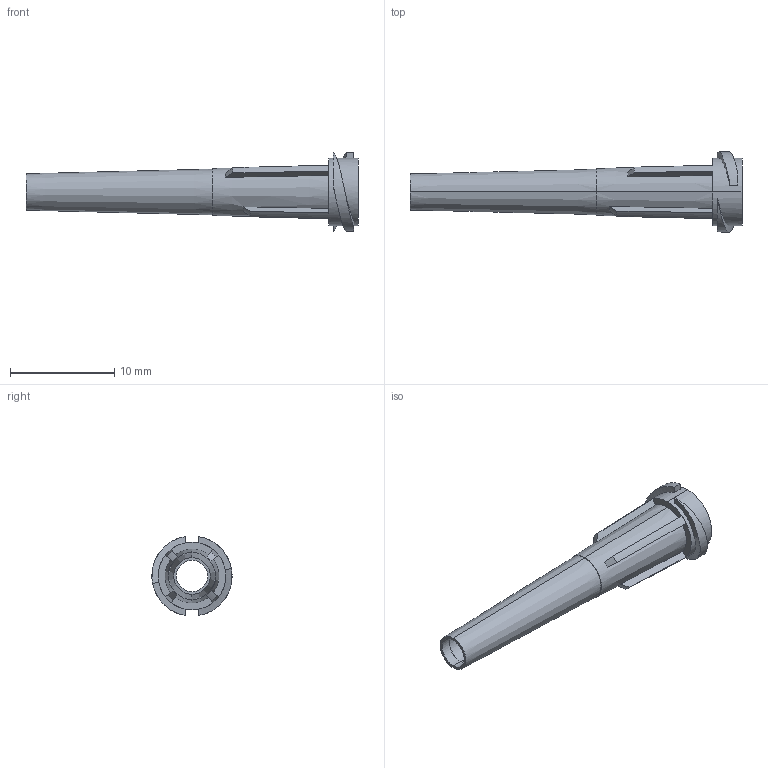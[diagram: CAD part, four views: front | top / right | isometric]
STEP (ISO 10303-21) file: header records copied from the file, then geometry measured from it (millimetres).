
FILE_DESCRIPTION (( 'STEP AP214' ), '1' );
FILE_NAME ('8001217_CUS.STEP', '2021-10-12T14:04:15', ( '' ), ( '' ), 'SwSTEP 2.0', 'SolidWorks 2020', '' );
FILE_SCHEMA (( 'AUTOMOTIVE_DESIGN' ));
Length unit declared in the file: millimetre
Products named in the file (1): 8001217_CUS
Bounding box: 31.9 x 7.69 x 7.59 mm (x, y, z)
Volume: 229.8 mm3; surface area: 940.7 mm2
Topology: 3 solids, 3 shells, 55 faces, 126 edges, 82 vertices
Faces by surface type: plane 25, cone 20, bspline 6, cylinder 4
Entity records: 1824 total; most frequent: CARTESIAN_POINT 554, DIRECTION 254, ORIENTED_EDGE 252, EDGE_CURVE 126, AXIS2_PLACEMENT_3D 100, VERTEX_POINT 82, EDGE_LOOP 62, ADVANCED_FACE 55
